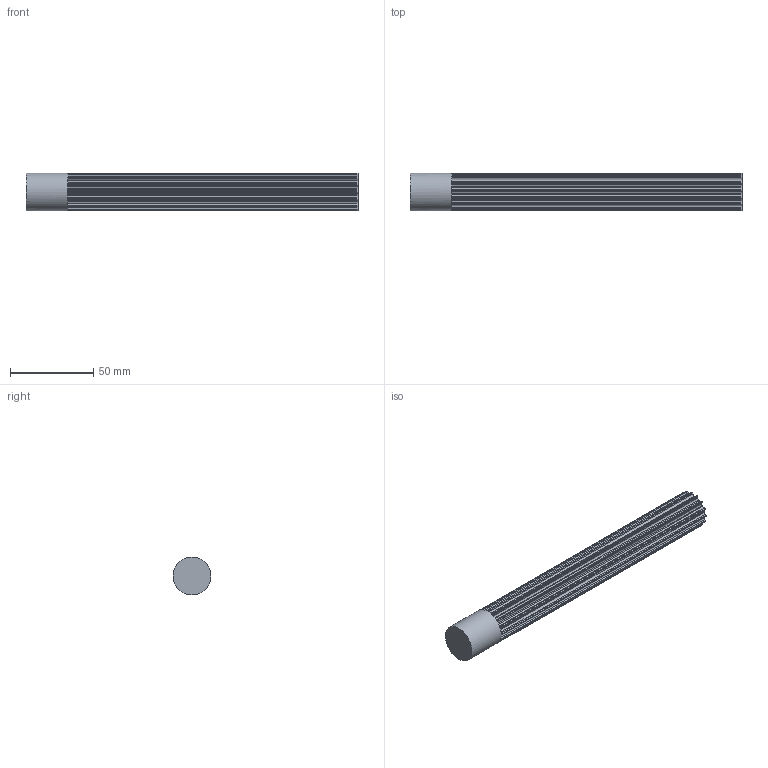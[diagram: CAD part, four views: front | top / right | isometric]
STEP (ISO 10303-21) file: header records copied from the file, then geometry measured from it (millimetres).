
FILE_DESCRIPTION( ( 'STEP AP214' ), '1' );
FILE_NAME( 'C:/Users/StangenbergN/Desktop/Steps Zahnriemenräder/K166_HTD-Zahnwellen/17291500.stp', '2019-06-06T09:40:53', ( '' ), ( '' ), ' ', 'PARTsolutions', ' ' );
FILE_SCHEMA( ( 'AUTOMOTIVE_DESIGN { 1 0 10303 214 1 1 1 1 }' ) );
Length unit declared in the file: millimetre
Products named in the file (1): _17291500
Bounding box: 200 x 22.73 x 22.73 mm (x, y, z)
Volume: 65844.3 mm3; surface area: 19731 mm2
Topology: 1 solids, 1 shells, 123 faces, 363 edges, 242 vertices
Faces by surface type: plane 62, cylinder 61
Full cylindrical faces by diameter (mm): 22.73 x1
Entity records: 5154 total; most frequent: DIRECTION 760, CARTESIAN_POINT 726, ORIENTED_EDGE 722, EDGE_CURVE 361, AXIS2_PLACEMENT_3D 275, VERTEX_POINT 241, LINE 210, VECTOR 210
